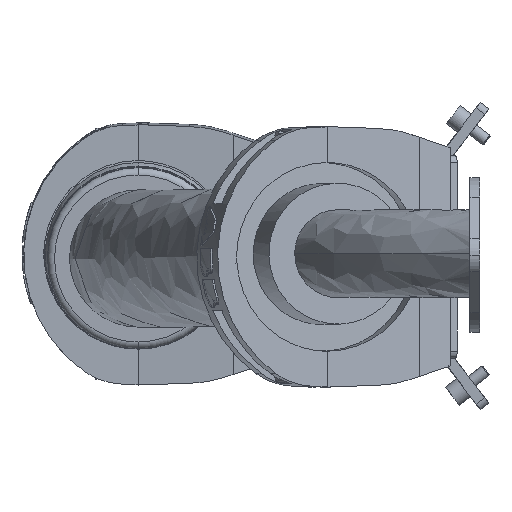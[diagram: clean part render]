
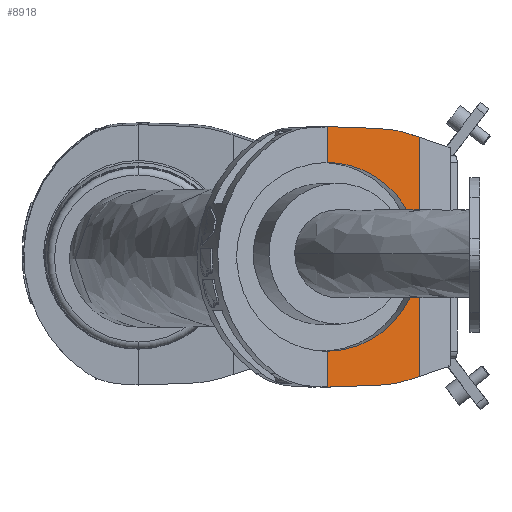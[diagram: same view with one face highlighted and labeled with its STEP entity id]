
A CAD part, left-side view. The second image highlights one B-rep face of the part: STEP entity #8918.
In plain terms, the highlighted planar face has unit normal (-0.974, -0.225, 0).
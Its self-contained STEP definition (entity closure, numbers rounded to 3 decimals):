
#48 = CARTESIAN_POINT ( 'NONE',  ( 823.321, 146.691, 2067.573 ) ) ;
#304 = VERTEX_POINT ( 'NONE', #17601 ) ;
#403 = EDGE_CURVE ( 'NONE', #13639, #1118, #9375, .T. ) ;
#443 = CARTESIAN_POINT ( 'NONE',  ( 829.188, 121.28, 1984.611 ) ) ;
#519 = EDGE_CURVE ( 'NONE', #7434, #14929, #16470, .T. ) ;
#576 = VERTEX_POINT ( 'NONE', #9398 ) ;
#1037 = ORIENTED_EDGE ( 'NONE', *, *, #15550, .F. ) ;
#1056 = EDGE_CURVE ( 'NONE', #12852, #576, #4247, .T. ) ;
#1118 = VERTEX_POINT ( 'NONE', #17475 ) ;
#1185 = DIRECTION ( 'NONE',  ( 0., 0., -1. ) ) ;
#1192 = CARTESIAN_POINT ( 'NONE',  ( 823.218, 147.137, 1940.995 ) ) ;
#1329 = DIRECTION ( 'NONE',  ( 0., 0., 1. ) ) ;
#1358 = CARTESIAN_POINT ( 'NONE',  ( 828.79, 123., 2081.938 ) ) ;
#1465 = CARTESIAN_POINT ( 'NONE',  ( 826.411, 133.307, 2085.44 ) ) ;
#1980 = EDGE_CURVE ( 'NONE', #6448, #5909, #5470, .T. ) ;
#2185 = CARTESIAN_POINT ( 'NONE',  ( 827.939, 126.689, 1944.755 ) ) ;
#2532 = CARTESIAN_POINT ( 'NONE',  ( 816.636, 175.648, 2087.973 ) ) ;
#2558 = EDGE_CURVE ( 'NONE', #1118, #5174, #15478, .T. ) ;
#2631 = DIRECTION ( 'NONE',  ( 0.225, -0.974, -0.035 ) ) ;
#2780 = ORIENTED_EDGE ( 'NONE', *, *, #519, .F. ) ;
#2922 = VECTOR ( 'NONE', #2631, 1000. ) ;
#3142 = CARTESIAN_POINT ( 'NONE',  ( 827.939, 126.689, 2083.191 ) ) ;
#3235 = VERTEX_POINT ( 'NONE', #15172 ) ;
#3376 = EDGE_LOOP ( 'NONE', ( #10824, #6177, #1037, #16324, #10246, #9054, #6632, #16252, #2780, #15643, #5399 ) ) ;
#3662 = CARTESIAN_POINT ( 'NONE',  ( 823.218, 147.137, 1940.995 ) ) ;
#3922 =( BOUNDED_CURVE ( )  B_SPLINE_CURVE ( 3, ( #5563, #8489, #48, #16655 ),
 .UNSPECIFIED., .F., .F. ) 
 B_SPLINE_CURVE_WITH_KNOTS ( ( 4, 4 ),
 ( 3.211, 4.712 ),
 .UNSPECIFIED. ) 
 CURVE ( )  GEOMETRIC_REPRESENTATION_ITEM ( )  RATIONAL_B_SPLINE_CURVE ( ( 1., 0.821, 0.821, 1. ) ) 
 REPRESENTATION_ITEM ( '' )  );
#4247 =( BOUNDED_CURVE ( )  B_SPLINE_CURVE ( 3, ( #17130, #14364, #443, #15677 ),
 .UNSPECIFIED., .F., .T. ) 
 B_SPLINE_CURVE_WITH_KNOTS ( ( 4, 4 ),
 ( 1.571, 3.211 ),
 .UNSPECIFIED. ) 
 CURVE ( )  GEOMETRIC_REPRESENTATION_ITEM ( )  RATIONAL_B_SPLINE_CURVE ( ( 1., 0.788, 0.788, 1. ) ) 
 REPRESENTATION_ITEM ( '' )  );
#4517 = FACE_OUTER_BOUND ( 'NONE', #3376, .T. ) ;
#4896 = DIRECTION ( 'NONE',  ( -0.214, 0.925, -0.314 ) ) ;
#5174 = VERTEX_POINT ( 'NONE', #1192 ) ;
#5285 = DIRECTION ( 'NONE',  ( 0.214, -0.925, -0.314 ) ) ;
#5399 = ORIENTED_EDGE ( 'NONE', *, *, #13788, .F. ) ;
#5470 = LINE ( 'NONE', #13684, #10298 ) ;
#5563 = CARTESIAN_POINT ( 'NONE',  ( 828.671, 123.516, 2017.682 ) ) ;
#5678 =( BOUNDED_CURVE ( )  B_SPLINE_CURVE ( 3, ( #8444, #16788, #1465, #3142 ),
 .UNSPECIFIED., .F., .F. ) 
 B_SPLINE_CURVE_WITH_KNOTS ( ( 4, 4 ),
 ( 4.747, 5.032 ),
 .UNSPECIFIED. ) 
 CURVE ( )  GEOMETRIC_REPRESENTATION_ITEM ( )  RATIONAL_B_SPLINE_CURVE ( ( 1., 0.993, 0.993, 1. ) ) 
 REPRESENTATION_ITEM ( '' )  );
#5909 = VERTEX_POINT ( 'NONE', #1358 ) ;
#6177 = ORIENTED_EDGE ( 'NONE', *, *, #13005, .F. ) ;
#6386 = CARTESIAN_POINT ( 'NONE',  ( 816.636, 175.648, 1960.374 ) ) ;
#6448 = VERTEX_POINT ( 'NONE', #16483 ) ;
#6632 = ORIENTED_EDGE ( 'NONE', *, *, #1980, .F. ) ;
#7228 = EDGE_CURVE ( 'NONE', #304, #7434, #15077, .T. ) ;
#7251 = DIRECTION ( 'NONE',  ( 0.225, -0.974, 0. ) ) ;
#7401 = VECTOR ( 'NONE', #12212, 1000. ) ;
#7434 = VERTEX_POINT ( 'NONE', #14862 ) ;
#7504 = VECTOR ( 'NONE', #13778, 1000. ) ;
#8179 = VECTOR ( 'NONE', #4896, 1000. ) ;
#8444 = CARTESIAN_POINT ( 'NONE',  ( 823.218, 147.137, 2086.952 ) ) ;
#8489 = CARTESIAN_POINT ( 'NONE',  ( 828.209, 125.519, 2047.311 ) ) ;
#8872 = EDGE_CURVE ( 'NONE', #14929, #6448, #5678, .T. ) ;
#8918 = ADVANCED_FACE ( 'NONE', ( #4517 ), #14375, .F. ) ;
#9054 = ORIENTED_EDGE ( 'NONE', *, *, #10548, .F. ) ;
#9375 = LINE ( 'NONE', #16354, #8179 ) ;
#9398 = CARTESIAN_POINT ( 'NONE',  ( 828.671, 123.516, 2017.682 ) ) ;
#9981 = VECTOR ( 'NONE', #1185, 1000. ) ;
#10246 = ORIENTED_EDGE ( 'NONE', *, *, #403, .F. ) ;
#10298 = VECTOR ( 'NONE', #5285, 1000. ) ;
#10521 = CARTESIAN_POINT ( 'NONE',  ( 826.411, 133.307, 1942.506 ) ) ;
#10548 = EDGE_CURVE ( 'NONE', #5909, #13639, #15128, .T. ) ;
#10824 = ORIENTED_EDGE ( 'NONE', *, *, #1056, .F. ) ;
#10871 = LINE ( 'NONE', #12429, #14709 ) ;
#11951 = AXIS2_PLACEMENT_3D ( 'NONE', #17216, #15769, #7251 ) ;
#12212 = DIRECTION ( 'NONE',  ( -0.225, 0.974, -0.035 ) ) ;
#12429 = CARTESIAN_POINT ( 'NONE',  ( 816.636, 175.648, 2087.973 ) ) ;
#12852 = VERTEX_POINT ( 'NONE', #6386 ) ;
#13005 = EDGE_CURVE ( 'NONE', #3235, #12852, #10871, .T. ) ;
#13467 = LINE ( 'NONE', #16149, #7401 ) ;
#13613 = CARTESIAN_POINT ( 'NONE',  ( 823.218, 147.137, 2086.952 ) ) ;
#13639 = VERTEX_POINT ( 'NONE', #14996 ) ;
#13684 = CARTESIAN_POINT ( 'NONE',  ( 827.621, 128.064, 2083.659 ) ) ;
#13736 = CARTESIAN_POINT ( 'NONE',  ( 828.79, 123., 2113.973 ) ) ;
#13778 = DIRECTION ( 'NONE',  ( 0., 0., 1. ) ) ;
#13788 = EDGE_CURVE ( 'NONE', #576, #304, #3922, .T. ) ;
#14364 = CARTESIAN_POINT ( 'NONE',  ( 824.097, 143.329, 1960.374 ) ) ;
#14375 = PLANE ( 'NONE',  #11951 ) ;
#14709 = VECTOR ( 'NONE', #1329, 1000. ) ;
#14730 = CARTESIAN_POINT ( 'NONE',  ( 824.827, 140.169, 1941.244 ) ) ;
#14802 = CARTESIAN_POINT ( 'NONE',  ( 822.872, 148.636, 2087.006 ) ) ;
#14862 = CARTESIAN_POINT ( 'NONE',  ( 816.636, 175.648, 2087.973 ) ) ;
#14929 = VERTEX_POINT ( 'NONE', #13613 ) ;
#14996 = CARTESIAN_POINT ( 'NONE',  ( 828.79, 123., 1946.009 ) ) ;
#15077 = LINE ( 'NONE', #2532, #7504 ) ;
#15128 = LINE ( 'NONE', #13736, #9981 ) ;
#15172 = CARTESIAN_POINT ( 'NONE',  ( 816.636, 175.648, 1939.973 ) ) ;
#15478 =( BOUNDED_CURVE ( )  B_SPLINE_CURVE ( 3, ( #2185, #10521, #14730, #3662 ),
 .UNSPECIFIED., .F., .F. ) 
 B_SPLINE_CURVE_WITH_KNOTS ( ( 4, 4 ),
 ( 1.251, 1.536 ),
 .UNSPECIFIED. ) 
 CURVE ( )  GEOMETRIC_REPRESENTATION_ITEM ( )  RATIONAL_B_SPLINE_CURVE ( ( 1., 0.993, 0.993, 1. ) ) 
 REPRESENTATION_ITEM ( '' )  );
#15550 = EDGE_CURVE ( 'NONE', #5174, #3235, #13467, .T. ) ;
#15643 = ORIENTED_EDGE ( 'NONE', *, *, #7228, .F. ) ;
#15677 = CARTESIAN_POINT ( 'NONE',  ( 828.671, 123.516, 2017.682 ) ) ;
#15769 = DIRECTION ( 'NONE',  ( 0.974, 0.225, 0. ) ) ;
#16149 = CARTESIAN_POINT ( 'NONE',  ( 816.298, 177.113, 1939.921 ) ) ;
#16252 = ORIENTED_EDGE ( 'NONE', *, *, #8872, .F. ) ;
#16324 = ORIENTED_EDGE ( 'NONE', *, *, #2558, .F. ) ;
#16354 = CARTESIAN_POINT ( 'NONE',  ( 827.621, 128.064, 1944.288 ) ) ;
#16470 = LINE ( 'NONE', #14802, #2922 ) ;
#16483 = CARTESIAN_POINT ( 'NONE',  ( 827.939, 126.689, 2083.191 ) ) ;
#16655 = CARTESIAN_POINT ( 'NONE',  ( 816.636, 175.648, 2067.573 ) ) ;
#16788 = CARTESIAN_POINT ( 'NONE',  ( 824.827, 140.169, 2086.703 ) ) ;
#17130 = CARTESIAN_POINT ( 'NONE',  ( 816.636, 175.648, 1960.374 ) ) ;
#17216 = CARTESIAN_POINT ( 'NONE',  ( 815.587, 180.19, 2113.973 ) ) ;
#17475 = CARTESIAN_POINT ( 'NONE',  ( 827.939, 126.689, 1944.755 ) ) ;
#17601 = CARTESIAN_POINT ( 'NONE',  ( 816.636, 175.648, 2067.573 ) ) ;
